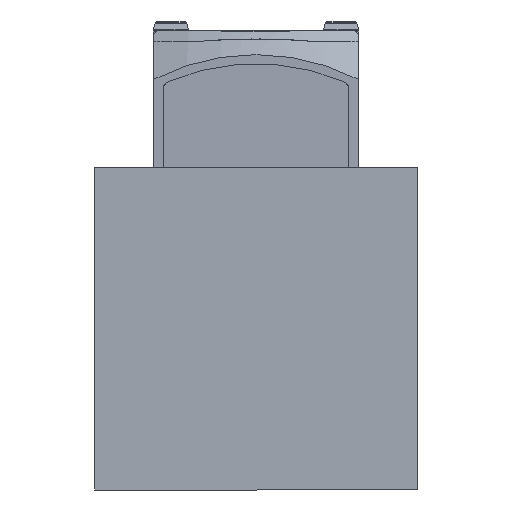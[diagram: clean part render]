
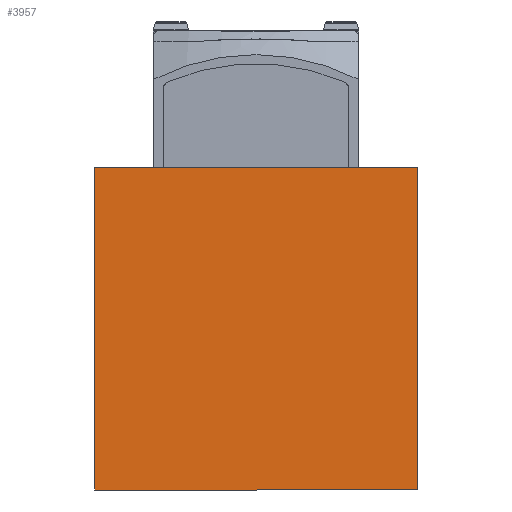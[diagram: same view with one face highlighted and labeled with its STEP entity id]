
A CAD part, top view. The second image highlights one B-rep face of the part: STEP entity #3957.
In plain terms, the highlighted planar face has unit normal (0, 0, 1).
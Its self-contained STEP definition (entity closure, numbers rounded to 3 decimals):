
#534=FACE_OUTER_BOUND('',#789,.T.);
#789=EDGE_LOOP('',(#3539,#3540,#3541,#3542));
#1164=LINE('',#7568,#1546);
#1165=LINE('',#7570,#1547);
#1166=LINE('',#7572,#1548);
#1167=LINE('',#7573,#1549);
#1546=VECTOR('',#5324,10.);
#1547=VECTOR('',#5325,10.);
#1548=VECTOR('',#5326,10.);
#1549=VECTOR('',#5327,10.);
#1899=VERTEX_POINT('',#7566);
#1900=VERTEX_POINT('',#7567);
#1901=VERTEX_POINT('',#7569);
#1902=VERTEX_POINT('',#7571);
#2448=EDGE_CURVE('',#1899,#1900,#1164,.T.);
#2449=EDGE_CURVE('',#1900,#1901,#1165,.T.);
#2450=EDGE_CURVE('',#1901,#1902,#1166,.T.);
#2451=EDGE_CURVE('',#1902,#1899,#1167,.T.);
#3539=ORIENTED_EDGE('',*,*,#2448,.T.);
#3540=ORIENTED_EDGE('',*,*,#2449,.T.);
#3541=ORIENTED_EDGE('',*,*,#2450,.T.);
#3542=ORIENTED_EDGE('',*,*,#2451,.T.);
#3723=PLANE('',#4313);
#3957=ADVANCED_FACE('',(#534),#3723,.T.);
#4313=AXIS2_PLACEMENT_3D('',#7565,#5322,#5323);
#5322=DIRECTION('center_axis',(0.,0.,1.));
#5323=DIRECTION('ref_axis',(0.,-1.,0.));
#5324=DIRECTION('',(-1.,0.,0.));
#5325=DIRECTION('',(0.,-1.,0.));
#5326=DIRECTION('',(1.,0.,0.));
#5327=DIRECTION('',(0.,1.,0.));
#7565=CARTESIAN_POINT('Origin',(0.,12.8,
1205.107));
#7566=CARTESIAN_POINT('',(18.,30.8,1205.107));
#7567=CARTESIAN_POINT('',(-18.,30.8,1205.107));
#7568=CARTESIAN_POINT('',(-18.,30.8,1205.107));
#7569=CARTESIAN_POINT('',(-18.,-5.2,1205.107));
#7570=CARTESIAN_POINT('',(-18.,-5.2,1205.107));
#7571=CARTESIAN_POINT('',(18.,-5.2,1205.107));
#7572=CARTESIAN_POINT('',(18.,-5.2,1205.107));
#7573=CARTESIAN_POINT('',(18.,30.8,1205.107));
